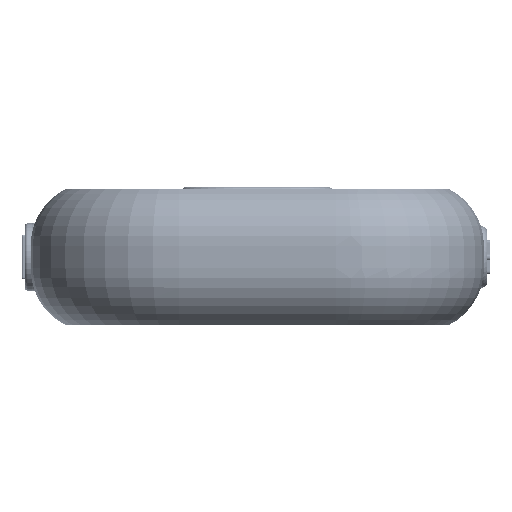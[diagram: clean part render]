
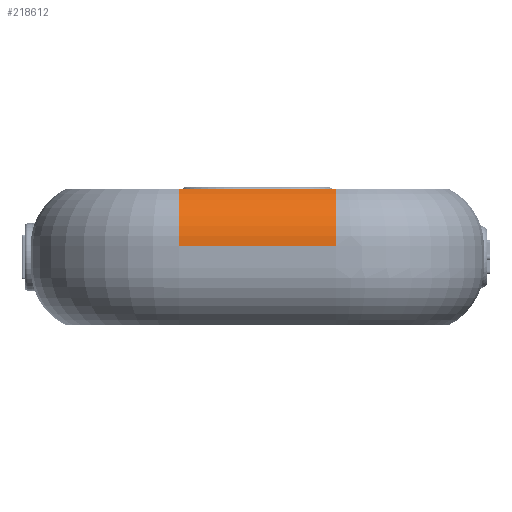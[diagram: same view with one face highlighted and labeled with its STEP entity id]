
A CAD part, front view. The second image highlights one B-rep face of the part: STEP entity #218612.
In plain terms, the highlighted cylindrical face has radius 11.35 mm (diameter 22.7 mm), a partial arc.
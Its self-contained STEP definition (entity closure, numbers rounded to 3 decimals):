
#215339 = TOROIDAL_SURFACE('',#215340,15.,11.35);
#215340 = AXIS2_PLACEMENT_3D('',#215341,#215342,#215343);
#215341 = CARTESIAN_POINT('',(-14.,-50.,-10.));
#215342 = DIRECTION('',(0.,0.,1.));
#215343 = DIRECTION('',(0.,-1.,0.));
#217612 = VERTEX_POINT('',#217613);
#217613 = CARTESIAN_POINT('',(-14.,-70.,0.189));
#217637 = VERTEX_POINT('',#217638);
#217638 = CARTESIAN_POINT('',(-14.,-76.35,-10.));
#217660 = EDGE_CURVE('',#217637,#217612,#217661,.T.);
#217661 = SURFACE_CURVE('',#217662,(#217667,#217673),.PCURVE_S1.);
#217662 = CIRCLE('',#217663,11.35);
#217663 = AXIS2_PLACEMENT_3D('',#217664,#217665,#217666);
#217664 = CARTESIAN_POINT('',(-14.,-65.,-10.));
#217665 = DIRECTION('',(-1.,0.,0.));
#217666 = DIRECTION('',(0.,-1.,0.));
#217667 = PCURVE('',#215339,#217668);
#217668 = DEFINITIONAL_REPRESENTATION('',(#217669),#217672);
#217669 = B_SPLINE_CURVE_WITH_KNOTS('',1,(#217670,#217671),
  .UNSPECIFIED.,.F.,.F.,(2,2),(0.,1.571),
  .PIECEWISE_BEZIER_KNOTS.);
#217670 = CARTESIAN_POINT('',(6.283,0.));
#217671 = CARTESIAN_POINT('',(6.283,1.571));
#217672 = ( GEOMETRIC_REPRESENTATION_CONTEXT(2) 
PARAMETRIC_REPRESENTATION_CONTEXT() REPRESENTATION_CONTEXT('2D SPACE',''
  ) );
#217673 = PCURVE('',#217674,#217679);
#217674 = CYLINDRICAL_SURFACE('',#217675,11.35);
#217675 = AXIS2_PLACEMENT_3D('',#217676,#217677,#217678);
#217676 = CARTESIAN_POINT('',(14.,-65.,-10.));
#217677 = DIRECTION('',(-1.,-0.,-0.));
#217678 = DIRECTION('',(0.,-1.,0.));
#217679 = DEFINITIONAL_REPRESENTATION('',(#217680),#217683);
#217680 = B_SPLINE_CURVE_WITH_KNOTS('',1,(#217681,#217682),
  .UNSPECIFIED.,.F.,.F.,(2,2),(0.,1.571),
  .PIECEWISE_BEZIER_KNOTS.);
#217681 = CARTESIAN_POINT('',(0.,28.));
#217682 = CARTESIAN_POINT('',(1.571,28.));
#217683 = ( GEOMETRIC_REPRESENTATION_CONTEXT(2) 
PARAMETRIC_REPRESENTATION_CONTEXT() REPRESENTATION_CONTEXT('2D SPACE',''
  ) );
#218029 = PLANE('',#218030);
#218030 = AXIS2_PLACEMENT_3D('',#218031,#218032,#218033);
#218031 = CARTESIAN_POINT('',(-14.,-76.35,-25.35));
#218032 = DIRECTION('',(0.,1.,0.));
#218033 = DIRECTION('',(1.,0.,0.));
#218598 = PLANE('',#218599);
#218599 = AXIS2_PLACEMENT_3D('',#218600,#218601,#218602);
#218600 = CARTESIAN_POINT('',(-14.,-70.,-40.));
#218601 = DIRECTION('',(0.,1.,0.));
#218602 = DIRECTION('',(1.,0.,0.));
#218612 = ADVANCED_FACE('',(#218613),#217674,.T.);
#218613 = FACE_BOUND('',#218614,.T.);
#218614 = EDGE_LOOP('',(#218615,#218638,#218665,#218685));
#218615 = ORIENTED_EDGE('',*,*,#218616,.F.);
#218616 = EDGE_CURVE('',#218617,#217637,#218619,.T.);
#218617 = VERTEX_POINT('',#218618);
#218618 = CARTESIAN_POINT('',(14.,-76.35,-10.));
#218619 = SURFACE_CURVE('',#218620,(#218624,#218631),.PCURVE_S1.);
#218620 = LINE('',#218621,#218622);
#218621 = CARTESIAN_POINT('',(14.,-76.35,-10.));
#218622 = VECTOR('',#218623,1.);
#218623 = DIRECTION('',(-1.,-0.,-0.));
#218624 = PCURVE('',#217674,#218625);
#218625 = DEFINITIONAL_REPRESENTATION('',(#218626),#218630);
#218626 = LINE('',#218627,#218628);
#218627 = CARTESIAN_POINT('',(0.,0.));
#218628 = VECTOR('',#218629,1.);
#218629 = DIRECTION('',(0.,1.));
#218630 = ( GEOMETRIC_REPRESENTATION_CONTEXT(2) 
PARAMETRIC_REPRESENTATION_CONTEXT() REPRESENTATION_CONTEXT('2D SPACE',''
  ) );
#218631 = PCURVE('',#218029,#218632);
#218632 = DEFINITIONAL_REPRESENTATION('',(#218633),#218637);
#218633 = LINE('',#218634,#218635);
#218634 = CARTESIAN_POINT('',(28.,-15.35));
#218635 = VECTOR('',#218636,1.);
#218636 = DIRECTION('',(-1.,0.));
#218637 = ( GEOMETRIC_REPRESENTATION_CONTEXT(2) 
PARAMETRIC_REPRESENTATION_CONTEXT() REPRESENTATION_CONTEXT('2D SPACE',''
  ) );
#218638 = ORIENTED_EDGE('',*,*,#218639,.T.);
#218639 = EDGE_CURVE('',#218617,#218640,#218642,.T.);
#218640 = VERTEX_POINT('',#218641);
#218641 = CARTESIAN_POINT('',(14.,-70.,0.189));
#218642 = SURFACE_CURVE('',#218643,(#218648,#218654),.PCURVE_S1.);
#218643 = CIRCLE('',#218644,11.35);
#218644 = AXIS2_PLACEMENT_3D('',#218645,#218646,#218647);
#218645 = CARTESIAN_POINT('',(14.,-65.,-10.));
#218646 = DIRECTION('',(-1.,0.,0.));
#218647 = DIRECTION('',(0.,-1.,-0.));
#218648 = PCURVE('',#217674,#218649);
#218649 = DEFINITIONAL_REPRESENTATION('',(#218650),#218653);
#218650 = B_SPLINE_CURVE_WITH_KNOTS('',1,(#218651,#218652),
  .UNSPECIFIED.,.F.,.F.,(2,2),(0.,1.571),
  .PIECEWISE_BEZIER_KNOTS.);
#218651 = CARTESIAN_POINT('',(0.,0.));
#218652 = CARTESIAN_POINT('',(1.571,0.));
#218653 = ( GEOMETRIC_REPRESENTATION_CONTEXT(2) 
PARAMETRIC_REPRESENTATION_CONTEXT() REPRESENTATION_CONTEXT('2D SPACE',''
  ) );
#218654 = PCURVE('',#218655,#218660);
#218655 = TOROIDAL_SURFACE('',#218656,15.,11.35);
#218656 = AXIS2_PLACEMENT_3D('',#218657,#218658,#218659);
#218657 = CARTESIAN_POINT('',(14.,-50.,-10.));
#218658 = DIRECTION('',(0.,0.,1.));
#218659 = DIRECTION('',(1.,0.,-0.));
#218660 = DEFINITIONAL_REPRESENTATION('',(#218661),#218664);
#218661 = B_SPLINE_CURVE_WITH_KNOTS('',1,(#218662,#218663),
  .UNSPECIFIED.,.F.,.F.,(2,2),(0.,1.571),
  .PIECEWISE_BEZIER_KNOTS.);
#218662 = CARTESIAN_POINT('',(4.712,0.));
#218663 = CARTESIAN_POINT('',(4.712,1.571));
#218664 = ( GEOMETRIC_REPRESENTATION_CONTEXT(2) 
PARAMETRIC_REPRESENTATION_CONTEXT() REPRESENTATION_CONTEXT('2D SPACE',''
  ) );
#218665 = ORIENTED_EDGE('',*,*,#218666,.T.);
#218666 = EDGE_CURVE('',#218640,#217612,#218667,.T.);
#218667 = SURFACE_CURVE('',#218668,(#218672,#218678),.PCURVE_S1.);
#218668 = LINE('',#218669,#218670);
#218669 = CARTESIAN_POINT('',(14.,-70.,0.189));
#218670 = VECTOR('',#218671,1.);
#218671 = DIRECTION('',(-1.,-0.,-0.));
#218672 = PCURVE('',#217674,#218673);
#218673 = DEFINITIONAL_REPRESENTATION('',(#218674),#218677);
#218674 = B_SPLINE_CURVE_WITH_KNOTS('',1,(#218675,#218676),
  .UNSPECIFIED.,.F.,.F.,(2,2),(0.,28.),
  .PIECEWISE_BEZIER_KNOTS.);
#218675 = CARTESIAN_POINT('',(1.115,0.));
#218676 = CARTESIAN_POINT('',(1.115,28.));
#218677 = ( GEOMETRIC_REPRESENTATION_CONTEXT(2) 
PARAMETRIC_REPRESENTATION_CONTEXT() REPRESENTATION_CONTEXT('2D SPACE',''
  ) );
#218678 = PCURVE('',#218598,#218679);
#218679 = DEFINITIONAL_REPRESENTATION('',(#218680),#218684);
#218680 = LINE('',#218681,#218682);
#218681 = CARTESIAN_POINT('',(28.,-40.189));
#218682 = VECTOR('',#218683,1.);
#218683 = DIRECTION('',(-1.,0.));
#218684 = ( GEOMETRIC_REPRESENTATION_CONTEXT(2) 
PARAMETRIC_REPRESENTATION_CONTEXT() REPRESENTATION_CONTEXT('2D SPACE',''
  ) );
#218685 = ORIENTED_EDGE('',*,*,#217660,.F.);
